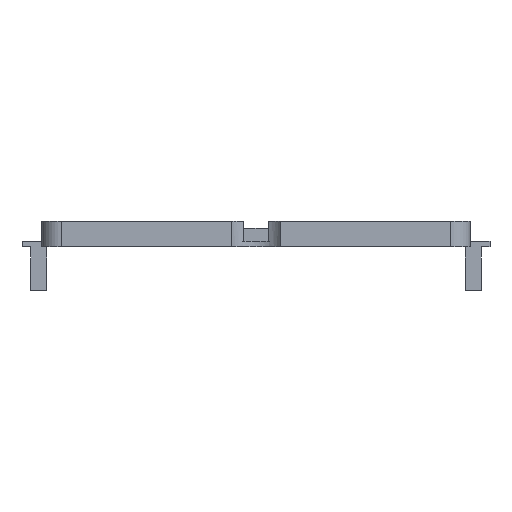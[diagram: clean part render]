
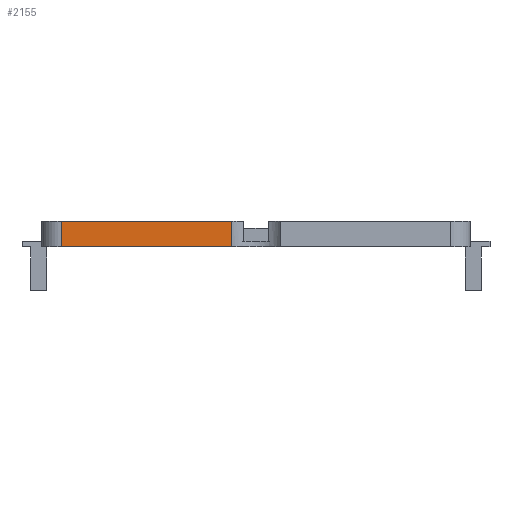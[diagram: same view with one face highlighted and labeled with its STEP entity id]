
A CAD part, front view. The second image highlights one B-rep face of the part: STEP entity #2155.
In plain terms, the highlighted planar face has unit normal (0, -1, 0).
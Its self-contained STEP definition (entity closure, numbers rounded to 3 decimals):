
#44 = CYLINDRICAL_SURFACE('',#45,3.);
#45 = AXIS2_PLACEMENT_3D('',#46,#47,#48);
#46 = CARTESIAN_POINT('',(-29.,-14.5,0.5));
#47 = DIRECTION('',(0.,0.,1.));
#48 = DIRECTION('',(-1.,-0.,0.));
#72 = PLANE('',#73);
#73 = AXIS2_PLACEMENT_3D('',#74,#75,#76);
#74 = CARTESIAN_POINT('',(-32.,-17.5,0.5));
#75 = DIRECTION('',(0.,0.,1.));
#76 = DIRECTION('',(1.,0.,-0.));
#340 = PLANE('',#341);
#341 = AXIS2_PLACEMENT_3D('',#342,#343,#344);
#342 = CARTESIAN_POINT('',(-32.,-17.5,4.3));
#343 = DIRECTION('',(0.,0.,1.));
#344 = DIRECTION('',(1.,0.,-0.));
#356 = VERTEX_POINT('',#357);
#357 = CARTESIAN_POINT('',(-29.,-17.5,0.5));
#379 = EDGE_CURVE('',#356,#380,#382,.T.);
#380 = VERTEX_POINT('',#381);
#381 = CARTESIAN_POINT('',(-29.,-17.5,4.3));
#382 = SURFACE_CURVE('',#383,(#387,#394),.PCURVE_S1.);
#383 = LINE('',#384,#385);
#384 = CARTESIAN_POINT('',(-29.,-17.5,0.5));
#385 = VECTOR('',#386,1.);
#386 = DIRECTION('',(0.,0.,1.));
#387 = PCURVE('',#44,#388);
#388 = DEFINITIONAL_REPRESENTATION('',(#389),#393);
#389 = LINE('',#390,#391);
#390 = CARTESIAN_POINT('',(1.571,0.));
#391 = VECTOR('',#392,1.);
#392 = DIRECTION('',(0.,1.));
#393 = ( GEOMETRIC_REPRESENTATION_CONTEXT(2) 
PARAMETRIC_REPRESENTATION_CONTEXT() REPRESENTATION_CONTEXT('2D SPACE',''
  ) );
#394 = PCURVE('',#395,#400);
#395 = PLANE('',#396);
#396 = AXIS2_PLACEMENT_3D('',#397,#398,#399);
#397 = CARTESIAN_POINT('',(-32.,-17.5,0.5));
#398 = DIRECTION('',(0.,1.,0.));
#399 = DIRECTION('',(0.,-0.,1.));
#400 = DEFINITIONAL_REPRESENTATION('',(#401),#405);
#401 = LINE('',#402,#403);
#402 = CARTESIAN_POINT('',(0.,3.));
#403 = VECTOR('',#404,1.);
#404 = DIRECTION('',(1.,0.));
#405 = ( GEOMETRIC_REPRESENTATION_CONTEXT(2) 
PARAMETRIC_REPRESENTATION_CONTEXT() REPRESENTATION_CONTEXT('2D SPACE',''
  ) );
#435 = EDGE_CURVE('',#356,#436,#438,.T.);
#436 = VERTEX_POINT('',#437);
#437 = CARTESIAN_POINT('',(-3.621,-17.5,0.5));
#438 = SURFACE_CURVE('',#439,(#443,#450),.PCURVE_S1.);
#439 = LINE('',#440,#441);
#440 = CARTESIAN_POINT('',(-32.,-17.5,0.5));
#441 = VECTOR('',#442,1.);
#442 = DIRECTION('',(1.,0.,0.));
#443 = PCURVE('',#72,#444);
#444 = DEFINITIONAL_REPRESENTATION('',(#445),#449);
#445 = LINE('',#446,#447);
#446 = CARTESIAN_POINT('',(0.,0.));
#447 = VECTOR('',#448,1.);
#448 = DIRECTION('',(1.,0.));
#449 = ( GEOMETRIC_REPRESENTATION_CONTEXT(2) 
PARAMETRIC_REPRESENTATION_CONTEXT() REPRESENTATION_CONTEXT('2D SPACE',''
  ) );
#450 = PCURVE('',#395,#451);
#451 = DEFINITIONAL_REPRESENTATION('',(#452),#456);
#452 = LINE('',#453,#454);
#453 = CARTESIAN_POINT('',(0.,0.));
#454 = VECTOR('',#455,1.);
#455 = DIRECTION('',(0.,1.));
#456 = ( GEOMETRIC_REPRESENTATION_CONTEXT(2) 
PARAMETRIC_REPRESENTATION_CONTEXT() REPRESENTATION_CONTEXT('2D SPACE',''
  ) );
#479 = CYLINDRICAL_SURFACE('',#480,4.4);
#480 = AXIS2_PLACEMENT_3D('',#481,#482,#483);
#481 = CARTESIAN_POINT('',(0.,-20.,-0.2));
#482 = DIRECTION('',(-0.,-0.,-1.));
#483 = DIRECTION('',(1.,0.,0.));
#1908 = EDGE_CURVE('',#380,#1909,#1911,.T.);
#1909 = VERTEX_POINT('',#1910);
#1910 = CARTESIAN_POINT('',(-3.621,-17.5,4.3));
#1911 = SURFACE_CURVE('',#1912,(#1916,#1923),.PCURVE_S1.);
#1912 = LINE('',#1913,#1914);
#1913 = CARTESIAN_POINT('',(-32.,-17.5,4.3));
#1914 = VECTOR('',#1915,1.);
#1915 = DIRECTION('',(1.,0.,0.));
#1916 = PCURVE('',#340,#1917);
#1917 = DEFINITIONAL_REPRESENTATION('',(#1918),#1922);
#1918 = LINE('',#1919,#1920);
#1919 = CARTESIAN_POINT('',(0.,0.));
#1920 = VECTOR('',#1921,1.);
#1921 = DIRECTION('',(1.,0.));
#1922 = ( GEOMETRIC_REPRESENTATION_CONTEXT(2) 
PARAMETRIC_REPRESENTATION_CONTEXT() REPRESENTATION_CONTEXT('2D SPACE',''
  ) );
#1923 = PCURVE('',#395,#1924);
#1924 = DEFINITIONAL_REPRESENTATION('',(#1925),#1929);
#1925 = LINE('',#1926,#1927);
#1926 = CARTESIAN_POINT('',(3.8,0.));
#1927 = VECTOR('',#1928,1.);
#1928 = DIRECTION('',(0.,1.));
#1929 = ( GEOMETRIC_REPRESENTATION_CONTEXT(2) 
PARAMETRIC_REPRESENTATION_CONTEXT() REPRESENTATION_CONTEXT('2D SPACE',''
  ) );
#2155 = ADVANCED_FACE('',(#2156),#395,.F.);
#2156 = FACE_BOUND('',#2157,.F.);
#2157 = EDGE_LOOP('',(#2158,#2159,#2160,#2161));
#2158 = ORIENTED_EDGE('',*,*,#435,.F.);
#2159 = ORIENTED_EDGE('',*,*,#379,.T.);
#2160 = ORIENTED_EDGE('',*,*,#1908,.T.);
#2161 = ORIENTED_EDGE('',*,*,#2162,.T.);
#2162 = EDGE_CURVE('',#1909,#436,#2163,.T.);
#2163 = SURFACE_CURVE('',#2164,(#2168,#2175),.PCURVE_S1.);
#2164 = LINE('',#2165,#2166);
#2165 = CARTESIAN_POINT('',(-3.621,-17.5,-0.2));
#2166 = VECTOR('',#2167,1.);
#2167 = DIRECTION('',(-0.,-0.,-1.));
#2168 = PCURVE('',#395,#2169);
#2169 = DEFINITIONAL_REPRESENTATION('',(#2170),#2174);
#2170 = LINE('',#2171,#2172);
#2171 = CARTESIAN_POINT('',(-0.7,28.379));
#2172 = VECTOR('',#2173,1.);
#2173 = DIRECTION('',(-1.,0.));
#2174 = ( GEOMETRIC_REPRESENTATION_CONTEXT(2) 
PARAMETRIC_REPRESENTATION_CONTEXT() REPRESENTATION_CONTEXT('2D SPACE',''
  ) );
#2175 = PCURVE('',#479,#2176);
#2176 = DEFINITIONAL_REPRESENTATION('',(#2177),#2181);
#2177 = LINE('',#2178,#2179);
#2178 = CARTESIAN_POINT('',(3.746,0.));
#2179 = VECTOR('',#2180,1.);
#2180 = DIRECTION('',(-0.,1.));
#2181 = ( GEOMETRIC_REPRESENTATION_CONTEXT(2) 
PARAMETRIC_REPRESENTATION_CONTEXT() REPRESENTATION_CONTEXT('2D SPACE',''
  ) );
